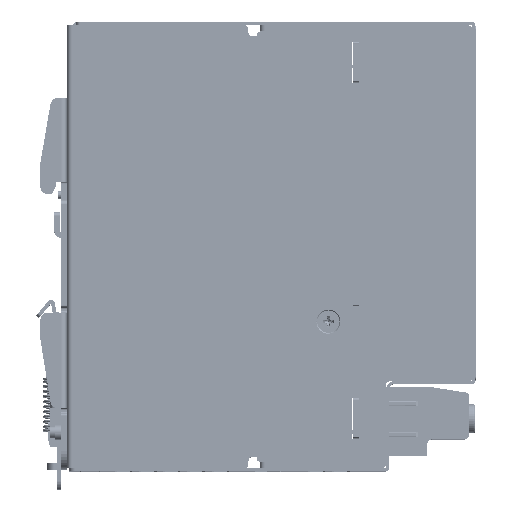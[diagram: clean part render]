
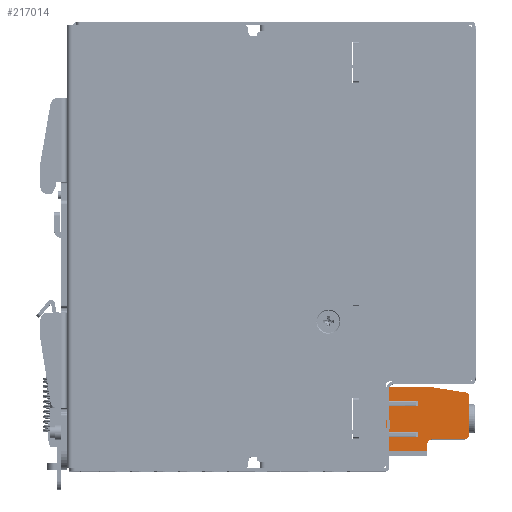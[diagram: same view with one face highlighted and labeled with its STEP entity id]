
A CAD part, top view. The second image highlights one B-rep face of the part: STEP entity #217014.
In plain terms, the highlighted planar face has unit normal (0, 0, 1) as drawn and (1, 0, 0) by its records, which use the part's own axes.
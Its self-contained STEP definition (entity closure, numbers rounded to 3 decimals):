
#212893=DIRECTION('',(0.,-1.,0.));
#212894=VECTOR('',#212893,3.2);
#212895=CARTESIAN_POINT('',(5.08,9.35,0.));
#212896=LINE('',#212895,#212894);
#213163=DIRECTION('',(0.,0.,-1.));
#213164=VECTOR('',#213163,1.2);
#213165=CARTESIAN_POINT('',(5.08,9.35,1.2));
#213166=LINE('',#213165,#213164);
#213313=DIRECTION('',(0.,0.,1.));
#213314=VECTOR('',#213313,14.25);
#213315=CARTESIAN_POINT('',(5.08,-5.09,1.25));
#213316=LINE('',#213315,#213314);
#213320=DIRECTION('',(0.,0.,-1.));
#213321=VECTOR('',#213320,16.3);
#213322=CARTESIAN_POINT('',(5.08,-9.35,18.3));
#213323=LINE('',#213322,#213321);
#213327=DIRECTION('',(0.,-0.156,-0.988));
#213328=VECTOR('',#213327,10.283);
#213329=CARTESIAN_POINT('',(5.08,-7.741,28.456));
#213330=LINE('',#213329,#213328);
#213334=CARTESIAN_POINT('',(5.08,-6.754,28.3));
#213335=DIRECTION('',(1.,0.,0.));
#213336=DIRECTION('',(0.,0.,1.));
#213337=AXIS2_PLACEMENT_3D('',#213334,#213335,#213336);
#213342=CARTESIAN_POINT('',(5.08,3.35,27.8));
#213343=DIRECTION('',(1.,0.,0.));
#213344=DIRECTION('',(0.,1.,0.));
#213345=AXIS2_PLACEMENT_3D('',#213342,#213343,#213344);
#213350=CARTESIAN_POINT('',(5.08,6.15,19.3));
#213351=DIRECTION('',(-1.,0.,0.));
#213352=DIRECTION('',(0.,0.,-1.));
#213353=AXIS2_PLACEMENT_3D('',#213350,#213351,#213352);
#213358=DIRECTION('',(0.,-1.,0.));
#213359=VECTOR('',#213358,1.9);
#213360=CARTESIAN_POINT('',(5.08,8.05,18.));
#213361=LINE('',#213360,#213359);
#213365=DIRECTION('',(0.,0.,1.));
#213366=VECTOR('',#213365,15.809);
#213367=CARTESIAN_POINT('',(5.08,8.05,2.191));
#213368=LINE('',#213367,#213366);
#213372=DIRECTION('',(0.,-1.,0.));
#213373=VECTOR('',#213372,0.1);
#213374=CARTESIAN_POINT('',(5.08,8.15,2.191));
#213375=LINE('',#213374,#213373);
#213379=DIRECTION('',(0.,-1.,0.));
#213380=VECTOR('',#213379,1.2);
#213381=CARTESIAN_POINT('',(5.08,9.35,1.2));
#213382=LINE('',#213381,#213380);
#213386=DIRECTION('',(0.,0.,-1.));
#213387=VECTOR('',#213386,14.25);
#213388=CARTESIAN_POINT('',(5.08,3.89,15.5));
#213389=LINE('',#213388,#213387);
#213393=DIRECTION('',(0.,0.,1.));
#213394=VECTOR('',#213393,14.25);
#213395=CARTESIAN_POINT('',(5.08,3.21,1.25));
#213396=LINE('',#213395,#213394);
#213400=DIRECTION('',(0.,0.,-1.));
#213401=VECTOR('',#213400,14.25);
#213402=CARTESIAN_POINT('',(5.08,-4.41,15.5));
#213403=LINE('',#213402,#213401);
#213429=DIRECTION('',(0.,-1.,0.));
#213430=VECTOR('',#213429,0.68);
#213431=CARTESIAN_POINT('',(5.08,-4.41,15.5));
#213432=LINE('',#213431,#213430);
#213612=DIRECTION('',(0.,-1.,0.));
#213613=VECTOR('',#213612,7.62);
#213614=CARTESIAN_POINT('',(5.08,3.21,1.25));
#213615=LINE('',#213614,#213613);
#213686=DIRECTION('',(0.,-1.,0.));
#213687=VECTOR('',#213686,2.26);
#213688=CARTESIAN_POINT('',(5.08,6.15,1.25));
#213689=LINE('',#213688,#213687);
#213693=DIRECTION('',(0.,-1.,0.));
#213694=VECTOR('',#213693,3.26);
#213695=CARTESIAN_POINT('',(5.08,-5.09,1.25));
#213696=LINE('',#213695,#213694);
#213729=DIRECTION('',(0.,-1.,0.));
#213730=VECTOR('',#213729,0.68);
#213731=CARTESIAN_POINT('',(5.08,3.89,15.5));
#213732=LINE('',#213731,#213730);
#213859=DIRECTION('',(0.,0.,1.));
#213860=VECTOR('',#213859,1.25);
#213861=CARTESIAN_POINT('',(5.08,6.15,0.));
#213862=LINE('',#213861,#213860);
#213964=DIRECTION('',(0.,-1.,0.));
#213965=VECTOR('',#213964,1.);
#213966=CARTESIAN_POINT('',(5.08,-8.35,2.));
#213967=LINE('',#213966,#213965);
#213971=DIRECTION('',(0.,0.,1.));
#213972=VECTOR('',#213971,0.75);
#213973=CARTESIAN_POINT('',(5.08,-8.35,1.25));
#213974=LINE('',#213973,#213972);
#214560=DIRECTION('',(0.,0.,-1.));
#214561=VECTOR('',#214560,8.5);
#214562=CARTESIAN_POINT('',(5.08,4.85,27.8));
#214563=LINE('',#214562,#214561);
#214660=DIRECTION('',(0.,1.,0.));
#214661=VECTOR('',#214660,10.104);
#214662=CARTESIAN_POINT('',(5.08,-6.754,29.3));
#214663=LINE('',#214662,#214661);
#215097=DIRECTION('',(0.,0.,-1.));
#215098=VECTOR('',#215097,0.991);
#215099=CARTESIAN_POINT('',(5.08,8.15,2.191));
#215100=LINE('',#215099,#215098);
#216137=CARTESIAN_POINT('',(5.08,4.85,27.8));
#216138=VERTEX_POINT('',#216137);
#216139=CARTESIAN_POINT('',(5.08,4.85,19.3));
#216140=VERTEX_POINT('',#216139);
#216253=CARTESIAN_POINT('',(5.08,9.35,0.));
#216254=VERTEX_POINT('',#216253);
#216255=CARTESIAN_POINT('',(5.08,6.15,0.));
#216256=VERTEX_POINT('',#216255);
#216269=CARTESIAN_POINT('',(5.08,6.15,18.));
#216270=VERTEX_POINT('',#216269);
#216272=CARTESIAN_POINT('',(5.08,-7.741,28.456));
#216274=VERTEX_POINT('',#216272);
#216277=CARTESIAN_POINT('',(5.08,-9.35,18.3));
#216278=VERTEX_POINT('',#216277);
#216279=CARTESIAN_POINT('',(5.08,-6.754,29.3));
#216280=VERTEX_POINT('',#216279);
#216339=CARTESIAN_POINT('',(5.08,-9.35,2.));
#216341=VERTEX_POINT('',#216339);
#216374=CARTESIAN_POINT('',(5.08,6.15,1.25));
#216375=VERTEX_POINT('',#216374);
#216383=CARTESIAN_POINT('',(5.08,-5.09,1.25));
#216385=VERTEX_POINT('',#216383);
#216386=CARTESIAN_POINT('',(5.08,-8.35,1.25));
#216387=VERTEX_POINT('',#216386);
#216388=CARTESIAN_POINT('',(5.08,3.89,1.25));
#216389=VERTEX_POINT('',#216388);
#216406=CARTESIAN_POINT('',(5.08,3.21,1.25));
#216407=VERTEX_POINT('',#216406);
#216408=CARTESIAN_POINT('',(5.08,-4.41,1.25));
#216409=VERTEX_POINT('',#216408);
#216428=CARTESIAN_POINT('',(5.08,-5.09,15.5));
#216429=VERTEX_POINT('',#216428);
#216430=CARTESIAN_POINT('',(5.08,-4.41,15.5));
#216431=VERTEX_POINT('',#216430);
#216432=CARTESIAN_POINT('',(5.08,3.21,15.5));
#216433=VERTEX_POINT('',#216432);
#216434=CARTESIAN_POINT('',(5.08,3.89,15.5));
#216435=VERTEX_POINT('',#216434);
#216436=CARTESIAN_POINT('',(5.08,9.35,1.2));
#216437=VERTEX_POINT('',#216436);
#216438=CARTESIAN_POINT('',(5.08,8.15,1.2));
#216439=VERTEX_POINT('',#216438);
#216440=CARTESIAN_POINT('',(5.08,8.15,2.191));
#216441=VERTEX_POINT('',#216440);
#216442=CARTESIAN_POINT('',(5.08,8.05,2.191));
#216443=VERTEX_POINT('',#216442);
#216444=CARTESIAN_POINT('',(5.08,8.05,18.));
#216445=VERTEX_POINT('',#216444);
#216446=CARTESIAN_POINT('',(5.08,3.35,29.3));
#216447=VERTEX_POINT('',#216446);
#216448=CARTESIAN_POINT('',(5.08,-8.35,2.));
#216449=VERTEX_POINT('',#216448);
#216957=CARTESIAN_POINT('',(5.08,-9.35,0.));
#216958=DIRECTION('',(-1.,0.,0.));
#216959=DIRECTION('',(0.,0.,1.));
#216960=AXIS2_PLACEMENT_3D('',#216957,#216958,#216959);
#216961=PLANE('',#216960);
#216963=ORIENTED_EDGE('',*,*,#216962,.F.);
#216965=ORIENTED_EDGE('',*,*,#216964,.T.);
#216967=ORIENTED_EDGE('',*,*,#216966,.T.);
#216969=ORIENTED_EDGE('',*,*,#216968,.T.);
#216971=ORIENTED_EDGE('',*,*,#216970,.F.);
#216973=ORIENTED_EDGE('',*,*,#216972,.F.);
#216975=ORIENTED_EDGE('',*,*,#216974,.F.);
#216977=ORIENTED_EDGE('',*,*,#216976,.T.);
#216979=ORIENTED_EDGE('',*,*,#216978,.F.);
#216981=ORIENTED_EDGE('',*,*,#216980,.T.);
#216983=ORIENTED_EDGE('',*,*,#216982,.F.);
#216985=ORIENTED_EDGE('',*,*,#216984,.F.);
#216987=ORIENTED_EDGE('',*,*,#216986,.F.);
#216989=ORIENTED_EDGE('',*,*,#216988,.F.);
#216991=ORIENTED_EDGE('',*,*,#216990,.T.);
#216993=ORIENTED_EDGE('',*,*,#216992,.F.);
#216994=ORIENTED_EDGE('',*,*,#216899,.T.);
#216995=ORIENTED_EDGE('',*,*,#216669,.T.);
#216997=ORIENTED_EDGE('',*,*,#216996,.T.);
#216999=ORIENTED_EDGE('',*,*,#216998,.T.);
#217001=ORIENTED_EDGE('',*,*,#217000,.F.);
#217003=ORIENTED_EDGE('',*,*,#217002,.T.);
#217005=ORIENTED_EDGE('',*,*,#217004,.F.);
#217007=ORIENTED_EDGE('',*,*,#217006,.T.);
#217009=ORIENTED_EDGE('',*,*,#217008,.F.);
#217011=ORIENTED_EDGE('',*,*,#217010,.T.);
#217012=EDGE_LOOP('',(#216963,#216965,#216967,#216969,#216971,#216973,#216975,
#216977,#216979,#216981,#216983,#216985,#216987,#216989,#216991,#216993,#216994,
#216995,#216997,#216999,#217001,#217003,#217005,#217007,#217009,#217011));
#217013=FACE_OUTER_BOUND('',#217012,.F.);
#213338=CIRCLE('',#213337,1.);
#213346=CIRCLE('',#213345,1.5);
#213354=CIRCLE('',#213353,1.3);
#216669=EDGE_CURVE('',#216254,#216256,#212896,.T.);
#216899=EDGE_CURVE('',#216437,#216254,#213166,.T.);
#216962=EDGE_CURVE('',#216385,#216429,#213316,.T.);
#216964=EDGE_CURVE('',#216385,#216387,#213696,.T.);
#216966=EDGE_CURVE('',#216387,#216449,#213974,.T.);
#216968=EDGE_CURVE('',#216449,#216341,#213967,.T.);
#216970=EDGE_CURVE('',#216278,#216341,#213323,.T.);
#216972=EDGE_CURVE('',#216274,#216278,#213330,.T.);
#216974=EDGE_CURVE('',#216280,#216274,#213338,.T.);
#216976=EDGE_CURVE('',#216280,#216447,#214663,.T.);
#216978=EDGE_CURVE('',#216138,#216447,#213346,.T.);
#216980=EDGE_CURVE('',#216138,#216140,#214563,.T.);
#216982=EDGE_CURVE('',#216270,#216140,#213354,.T.);
#216984=EDGE_CURVE('',#216445,#216270,#213361,.T.);
#216986=EDGE_CURVE('',#216443,#216445,#213368,.T.);
#216988=EDGE_CURVE('',#216441,#216443,#213375,.T.);
#216990=EDGE_CURVE('',#216441,#216439,#215100,.T.);
#216992=EDGE_CURVE('',#216437,#216439,#213382,.T.);
#216996=EDGE_CURVE('',#216256,#216375,#213862,.T.);
#216998=EDGE_CURVE('',#216375,#216389,#213689,.T.);
#217000=EDGE_CURVE('',#216435,#216389,#213389,.T.);
#217002=EDGE_CURVE('',#216435,#216433,#213732,.T.);
#217004=EDGE_CURVE('',#216407,#216433,#213396,.T.);
#217006=EDGE_CURVE('',#216407,#216409,#213615,.T.);
#217008=EDGE_CURVE('',#216431,#216409,#213403,.T.);
#217010=EDGE_CURVE('',#216431,#216429,#213432,.T.);
#217014=ADVANCED_FACE('',(#217013),#216961,.F.);
